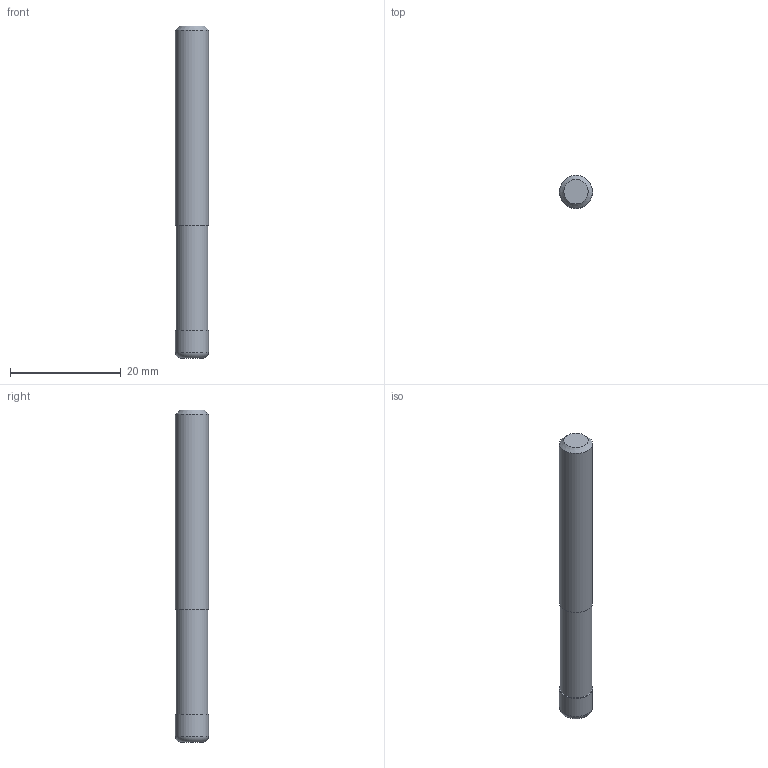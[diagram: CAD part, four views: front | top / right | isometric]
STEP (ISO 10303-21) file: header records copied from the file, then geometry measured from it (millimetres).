
FILE_DESCRIPTION((''),'2;1');
FILE_NAME('C:\Users\nsx150\AppData\Local\Temp\Mastercam 2021\8MCJJJGUOI\TEMP.step','2022-10-12T10:47:01',(''),(''),'STEP Write','Mastercam 2021 ... CNC Software, Inc.','');
FILE_SCHEMA(('AUTOMOTIVE_DESIGN'));
Length unit declared in the file: millimetre
Products named in the file (1): None
Bounding box: 6 x 6 x 60 mm (x, y, z)
Volume: 1634.8 mm3; surface area: 1208 mm2
Topology: 2 solids, 2 shells, 10 faces, 13 edges, 8 vertices
Faces by surface type: plane 5, cylinder 3, torus 1, cone 1
Full cylindrical faces by diameter (mm): 5.7 x1, 6 x2
Entity records: 232 total; most frequent: DIRECTION 40, CARTESIAN_POINT 28, AXIS2_PLACEMENT_3D 20, ORIENTED_EDGE 16, EDGE_LOOP 16, STYLED_ITEM 13, ADVANCED_FACE 10, FACE_BOUND 10
